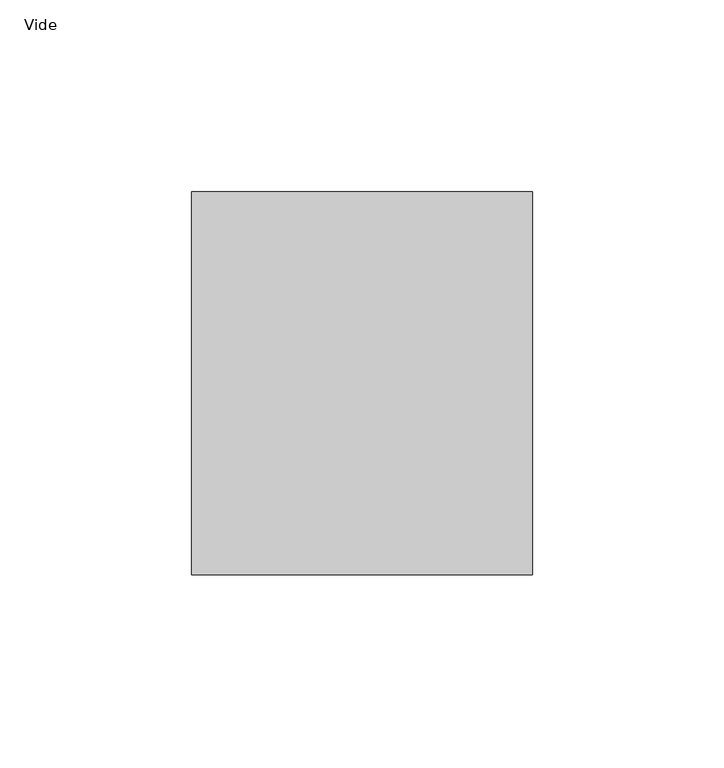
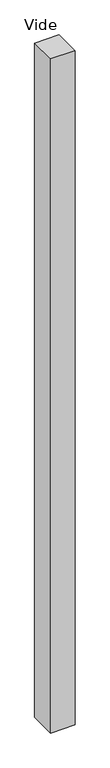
"""IFC4 building model written with IfcOpenShell, lengths in millimetres: plate geometry, Panneau système vide : Vide."""

import ifcopenshell
import ifcopenshell.guid

model = None  # the IFC model being written
_history = None  # IfcOwnerHistory: only IFC2X3 demands one
_inside = {}  # id of a spatial element -> (the spatial element, [elements in it])
_under = {}  # id of a project, library or spatial element -> (it, [spatial elements below it])
_declared = {}  # id of a project -> (the project, [libraries it declares])
_typed = {}  # id of a type object -> (the type object, [elements of that type])
_made_of = {}  # id of a material, layer set ... -> (it, [elements and type objects made of it])


def new_model(schema):
    """Start an empty IFC model of exactly this schema.

    Asked for "IFC4X3", IfcOpenShell would pick the latest addendum, in which some entities
    have other attributes; the version numbers below select the first issue.
    IFC2X3 requires an IfcOwnerHistory on every rooted entity: one is made here for all.
    """
    global model, _history
    if schema == "IFC4X3":
        model = ifcopenshell.file(schema_version=(4, 3, 0, 0))
    else:
        model = ifcopenshell.file(schema=schema)
    _inside.clear()
    _under.clear()
    _declared.clear()
    _typed.clear()
    _made_of.clear()
    _history = None
    if model.schema == "IFC2X3":
        org = make("IfcOrganization", Name="unknown")
        user = make(
            "IfcPersonAndOrganization",
            ThePerson=make("IfcPerson", FamilyName="unknown"),
            TheOrganization=org,
        )
        app = make(
            "IfcApplication",
            ApplicationDeveloper=org,
            Version="unknown",
            ApplicationFullName="unknown",
            ApplicationIdentifier="unknown",
        )
        _history = make(
            "IfcOwnerHistory",
            OwningUser=user,
            OwningApplication=app,
            ChangeAction="ADDED",
            CreationDate=0,
        )
    return model


def make(cls, **values):
    """One entity of the class cls with the attributes given. An attribute that is None is left unset."""
    return model.create_entity(
        cls, **{name: value for name, value in values.items() if value is not None}
    )


def rooted(cls, **values):
    """An entity with a GlobalId (a new one), such as an element, a storey or a relation."""
    return make(cls, GlobalId=ifcopenshell.guid.new(), OwnerHistory=_history, **values)


def si_unit(unit_type, name, prefix=None):
    """IfcSIUnit, for example si_unit("LENGTHUNIT", "METRE", prefix="MILLI")."""
    return make("IfcSIUnit", UnitType=unit_type, Prefix=prefix, Name=name)


def assignment(units):
    """IfcUnitAssignment: the units of a project."""
    return None if units is None else make("IfcUnitAssignment", Units=units)


def point(xyz):
    """IfcCartesianPoint."""
    return None if xyz is None else make("IfcCartesianPoint", Coordinates=xyz)


def direction(xyz):
    """IfcDirection."""
    return None if xyz is None else make("IfcDirection", DirectionRatios=xyz)


def frame(location, z_axis=None, x_axis=None):
    """IfcAxis2Placement3D, a coordinate frame: its origin and axes. An axis left out is left unset."""
    return make(
        "IfcAxis2Placement3D",
        Location=point(location),
        Axis=direction(z_axis),
        RefDirection=direction(x_axis),
    )


def origin():
    """The frame at (0, 0, 0) with its axes left unset."""
    return frame((0.0, 0.0, 0.0))


def origin_with_axes():
    """The frame at (0, 0, 0) with the z axis (0, 0, 1) and the x axis (1, 0, 0) written out."""
    return frame((0.0, 0.0, 0.0), z_axis=(0.0, 0.0, 1.0), x_axis=(1.0, 0.0, 0.0))


def place(relative_to, where):
    """IfcLocalPlacement: puts the frame where relative to a parent placement (None: the world)."""
    return make(
        "IfcLocalPlacement", PlacementRelTo=relative_to, RelativePlacement=where
    )


def context(
    kind, dimensions, precision=None, world=None, true_north=None, identifier=None
):
    """IfcGeometricRepresentationContext, for example the 3D "Model" context."""
    return make(
        "IfcGeometricRepresentationContext",
        ContextIdentifier=identifier,
        ContextType=kind,
        CoordinateSpaceDimension=dimensions,
        Precision=precision,
        WorldCoordinateSystem=world,
        TrueNorth=true_north,
    )


def project(units=None, contexts=None):
    """IfcProject with its units and contexts."""
    return rooted(
        "IfcProject",
        Name="project",
        RepresentationContexts=contexts,
        UnitsInContext=assignment(units),
    )


def spatial(cls, under=None, at=None, **own):
    """A site, building, storey or space (cls), placed at a placement, below another one or the project."""
    s = rooted(cls, ObjectPlacement=at, **own)
    if under is not None:
        _under.setdefault(under.id(), (under, []))[1].append(s)
    return s


def polyline(points):
    """IfcPolyline through the points."""
    return make("IfcPolyline", Points=[point(p) for p in points])


def outline(outer, holes=None, kind="AREA"):
    """IfcArbitraryClosedProfileDef: a profile drawn as a closed curve; with holes, ...WithVoids."""
    if holes is None:
        return make("IfcArbitraryClosedProfileDef", ProfileType=kind, OuterCurve=outer)
    return make(
        "IfcArbitraryProfileDefWithVoids",
        ProfileType=kind,
        OuterCurve=outer,
        InnerCurves=holes,
    )


def extrude(swept, where, along, depth):
    """IfcExtrudedAreaSolid: the profile swept, set in the frame where, extruded along a direction by depth."""
    return make(
        "IfcExtrudedAreaSolid",
        SweptArea=swept,
        Position=where,
        ExtrudedDirection=direction(along),
        Depth=depth,
    )


def shape(context_of_items, identifier, shape_type, items):
    """IfcShapeRepresentation: the items that make up one representation, for example the "Body"."""
    return make(
        "IfcShapeRepresentation",
        ContextOfItems=context_of_items,
        RepresentationIdentifier=identifier,
        RepresentationType=shape_type,
        Items=items,
    )


def source(mapping_origin, context_of_items, identifier, shape_type, items):
    """IfcRepresentationMap: a shape defined once, which mapped items show again and again."""
    return make(
        "IfcRepresentationMap",
        MappingOrigin=mapping_origin,
        MappedRepresentation=shape(context_of_items, identifier, shape_type, items),
    )


def transform(
    local_origin,
    x_axis=None,
    y_axis=None,
    z_axis=None,
    scale=None,
    scale2=None,
    scale3=None,
    uniform=True,
):
    """IfcCartesianTransformationOperator3D, or its non-uniform kind. x_axis, y_axis, z_axis: its Axis1, 2, 3."""
    if uniform:
        return make(
            "IfcCartesianTransformationOperator3D",
            Axis1=direction(x_axis),
            Axis2=direction(y_axis),
            LocalOrigin=point(local_origin),
            Scale=scale,
            Axis3=direction(z_axis),
        )
    return make(
        "IfcCartesianTransformationOperator3DnonUniform",
        Axis1=direction(x_axis),
        Axis2=direction(y_axis),
        LocalOrigin=point(local_origin),
        Scale=scale,
        Axis3=direction(z_axis),
        Scale2=scale2,
        Scale3=scale3,
    )


def mapped(mapping_source, mapping_target):
    """IfcMappedItem: shows the shape of a source again, moved by a transform."""
    return make(
        "IfcMappedItem", MappingSource=mapping_source, MappingTarget=mapping_target
    )


def made_of(thing, what):
    """Note that an element or type object is made of a material, layer set ...; save() writes the relation."""
    if what is not None:
        _made_of.setdefault(what.id(), (what, []))[1].append(thing)
    return thing


def element(
    cls,
    number,
    at=None,
    inside=None,
    cuts=None,
    type_object=None,
    material=None,
    context=None,
    identifier="Body",
    shape_type=None,
    held_by="IfcProductDefinitionShape",
    body=None,
    shapes=None,
    **own,
):
    """One element of the class cls, such as IfcWall. Its Tag is "e" and its number.

    at: its placement. inside: the storey or other place that contains it. cuts: it is an
    opening in that element (IfcRelVoidsElement). A single representation is given by context,
    identifier, shape_type and body (its items); several are given by shapes. held_by: the class
    of the entity that holds the representations. save() writes the other relations.
    """
    e = rooted(cls, Tag="e%d" % number, ObjectPlacement=at, **own)
    if body is not None:
        shapes = [shape(context, identifier, shape_type, body)]
    if shapes is not None:
        e.Representation = make(held_by, Representations=shapes)
    if inside is not None:
        _inside.setdefault(inside.id(), (inside, []))[1].append(e)
    if cuts is not None:
        rooted(
            "IfcRelVoidsElement", RelatingBuildingElement=cuts, RelatedOpeningElement=e
        )
    if type_object is not None:
        _typed.setdefault(type_object.id(), (type_object, []))[1].append(e)
    return made_of(e, material)


def aggregate(whole, parts):
    """IfcRelAggregates: a whole, such as a stair, and the parts it consists of."""
    return rooted("IfcRelAggregates", RelatingObject=whole, RelatedObjects=parts)


def save(model, path):
    """Write the relations noted so far, then the file.

    IfcRelAggregates (storeys below a building ...), IfcRelContainedInSpatialStructure (elements
    in a storey), IfcRelDefinesByType, IfcRelAssociatesMaterial and IfcRelDeclares: one each for
    every whole, place, type object, material and project.
    """
    for whole, parts in _under.values():
        aggregate(whole, parts)
    for where, things in _inside.values():
        rooted(
            "IfcRelContainedInSpatialStructure",
            RelatedElements=things,
            RelatingStructure=where,
        )
    for kind, things in _typed.values():
        rooted("IfcRelDefinesByType", RelatedObjects=things, RelatingType=kind)
    for what, things in _made_of.values():
        rooted("IfcRelAssociatesMaterial", RelatedObjects=things, RelatingMaterial=what)
    for by, libraries in _declared.values():
        rooted("IfcRelDeclares", RelatingContext=by, RelatedDefinitions=libraries)
    model.write(path)


def vide_8d6fe587(model_context):
    return source(origin(), model_context, "Body", "SweptSolid", [
        extrude(outline(polyline([(44.5000002, 50.0), (-44.5000002, 50.0), (-44.5000002, 150.0), (44.5000002, 150.0), (44.5000002, 50.0)])), origin_with_axes(), (0.0, 0.0, 1.0), 2588.190451),
    ])


if __name__ == "__main__":
    model = new_model("IFC4")
    model_context = context("Model", 3, world=origin())
    ifc_project = project(units=[si_unit("LENGTHUNIT", "METRE", prefix="MILLI")], contexts=[model_context])
    site = spatial("IfcSite", under=ifc_project)
    building = spatial("IfcBuilding", under=site)
    placement = place(None, origin())
    vide_shape = vide_8d6fe587(model_context)
    element("IfcPlate", 1, ObjectType="Panneau système vide : Vide", at=placement, inside=building, context=model_context, shape_type="MappedRepresentation", body=[
        mapped(vide_shape, transform((0.0, 0.0, 0.0), x_axis=(1.0, 0.0, 0.0), y_axis=(0.0, 1.0, 0.0), z_axis=(0.0, 0.0, 1.0))),
    ])
    save(model, "model.ifc")
